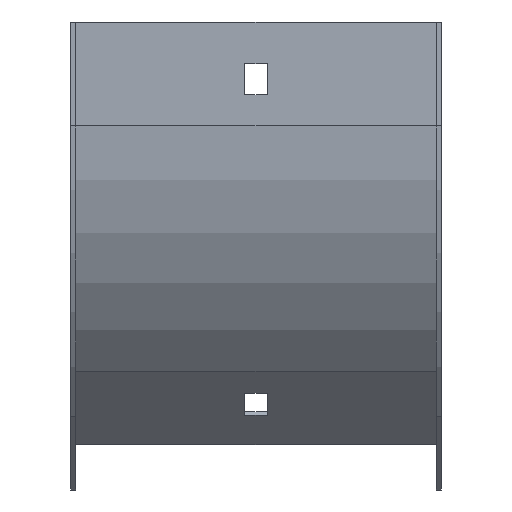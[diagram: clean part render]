
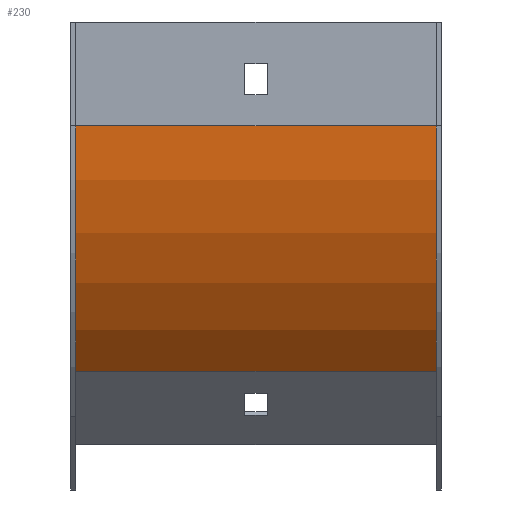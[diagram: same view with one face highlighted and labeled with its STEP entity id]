
A CAD part, front view. The second image highlights one B-rep face of the part: STEP entity #230.
In plain terms, the highlighted cylindrical face has radius 100 mm (diameter 200 mm), a partial arc.
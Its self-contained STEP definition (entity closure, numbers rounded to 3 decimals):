
#18 = CARTESIAN_POINT ( 'NONE',  ( 52., 98.5, -30. ) ) ;
#30 = AXIS2_PLACEMENT_3D ( 'NONE', #18, #560, #742 ) ;
#84 = ORIENTED_EDGE ( 'NONE', *, *, #649, .T. ) ;
#85 = CARTESIAN_POINT ( 'NONE',  ( 53.5, 27.789, -100.711 ) ) ;
#91 = DIRECTION ( 'NONE',  ( 0., 0., -1. ) ) ;
#111 = EDGE_CURVE ( 'NONE', #393, #554, #345, .T. ) ;
#127 = VERTEX_POINT ( 'NONE', #352 ) ;
#128 = CARTESIAN_POINT ( 'NONE',  ( 53.5, 98.5, -30. ) ) ;
#158 = CIRCLE ( 'NONE', #30, 100. ) ;
#206 = ORIENTED_EDGE ( 'NONE', *, *, #779, .T. ) ;
#226 = LINE ( 'NONE', #825, #266 ) ;
#230 = ADVANCED_FACE ( 'NONE', ( #396 ), #263, .T. ) ;
#249 = EDGE_LOOP ( 'NONE', ( #729, #843, #206, #84 ) ) ;
#263 = CYLINDRICAL_SURFACE ( 'NONE', #336, 100. ) ;
#266 = VECTOR ( 'NONE', #435, 1000. ) ;
#290 = CARTESIAN_POINT ( 'NONE',  ( -52., 98.5, -30. ) ) ;
#336 = AXIS2_PLACEMENT_3D ( 'NONE', #128, #534, #530 ) ;
#345 = CIRCLE ( 'NONE', #593, 100. ) ;
#351 = CARTESIAN_POINT ( 'NONE',  ( -52., -1.5, -30. ) ) ;
#352 = CARTESIAN_POINT ( 'NONE',  ( 52., 27.789, -100.711 ) ) ;
#393 = VERTEX_POINT ( 'NONE', #520 ) ;
#396 = FACE_OUTER_BOUND ( 'NONE', #249, .T. ) ;
#419 = CARTESIAN_POINT ( 'NONE',  ( 52., -1.5, -30. ) ) ;
#435 = DIRECTION ( 'NONE',  ( -1., 0., 0. ) ) ;
#474 = VECTOR ( 'NONE', #551, 1000. ) ;
#478 = DIRECTION ( 'NONE',  ( -1., 0., 0. ) ) ;
#520 = CARTESIAN_POINT ( 'NONE',  ( -52., 27.789, -100.711 ) ) ;
#530 = DIRECTION ( 'NONE',  ( 0., 0., 1. ) ) ;
#534 = DIRECTION ( 'NONE',  ( -1., 0., 0. ) ) ;
#551 = DIRECTION ( 'NONE',  ( -1., 0., 0. ) ) ;
#554 = VERTEX_POINT ( 'NONE', #351 ) ;
#560 = DIRECTION ( 'NONE',  ( -1., 0., 0. ) ) ;
#593 = AXIS2_PLACEMENT_3D ( 'NONE', #290, #478, #91 ) ;
#649 = EDGE_CURVE ( 'NONE', #749, #554, #226, .T. ) ;
#729 = ORIENTED_EDGE ( 'NONE', *, *, #111, .F. ) ;
#742 = DIRECTION ( 'NONE',  ( 0., 0., -1. ) ) ;
#749 = VERTEX_POINT ( 'NONE', #419 ) ;
#779 = EDGE_CURVE ( 'NONE', #127, #749, #158, .T. ) ;
#782 = EDGE_CURVE ( 'NONE', #127, #393, #811, .T. ) ;
#811 = LINE ( 'NONE', #85, #474 ) ;
#825 = CARTESIAN_POINT ( 'NONE',  ( 53.5, -1.5, -30. ) ) ;
#843 = ORIENTED_EDGE ( 'NONE', *, *, #782, .F. ) ;
